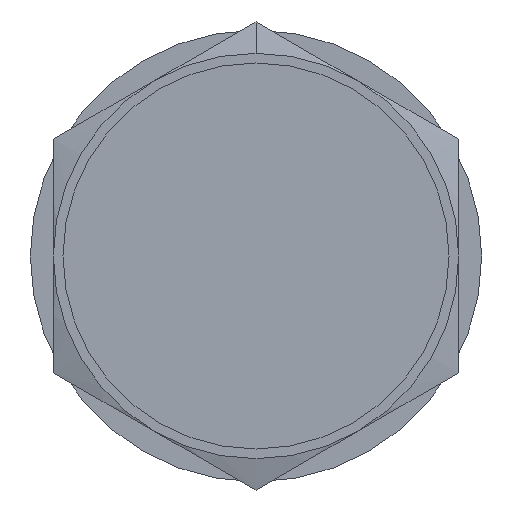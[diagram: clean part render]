
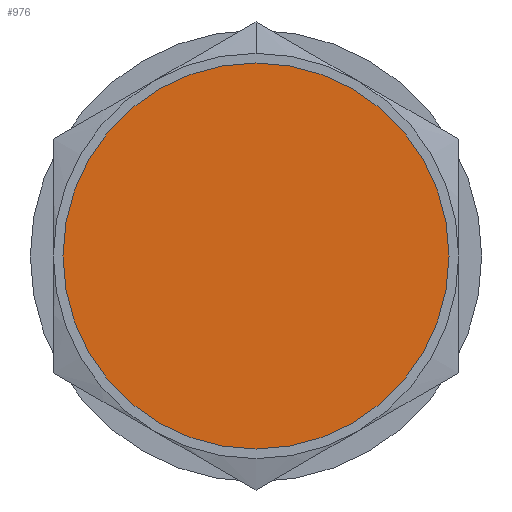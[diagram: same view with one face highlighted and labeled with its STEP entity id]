
A CAD part, front view. The second image highlights one B-rep face of the part: STEP entity #976.
In plain terms, the highlighted planar face has unit normal (0, -1, 0).
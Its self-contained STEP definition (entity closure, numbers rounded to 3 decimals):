
#19 = AXIS2_PLACEMENT_3D ( 'NONE', #1263, #1245, #1826 ) ;
#92 = DIRECTION ( 'NONE',  ( 0., 0., -1. ) ) ;
#132 = VERTEX_POINT ( 'NONE', #1698 ) ;
#158 = VERTEX_POINT ( 'NONE', #687 ) ;
#392 = FACE_OUTER_BOUND ( 'NONE', #1330, .T. ) ;
#656 = ORIENTED_EDGE ( 'NONE', *, *, #725, .T. ) ;
#662 = AXIS2_PLACEMENT_3D ( 'NONE', #1763, #1058, #1614 ) ;
#674 = PLANE ( 'NONE',  #19 ) ;
#687 = CARTESIAN_POINT ( 'NONE',  ( 0., -8.1, -10.478 ) ) ;
#725 = EDGE_CURVE ( 'NONE', #132, #158, #1296, .T. ) ;
#795 = CARTESIAN_POINT ( 'NONE',  ( 0., -8.1, 0. ) ) ;
#823 = EDGE_CURVE ( 'NONE', #158, #132, #1526, .T. ) ;
#976 = ADVANCED_FACE ( 'NONE', ( #392 ), #674, .F. ) ;
#1058 = DIRECTION ( 'NONE',  ( 0., -1., 0. ) ) ;
#1245 = DIRECTION ( 'NONE',  ( 0., 1., 0. ) ) ;
#1263 = CARTESIAN_POINT ( 'NONE',  ( 10.478, -8.1, 0. ) ) ;
#1296 = CIRCLE ( 'NONE', #662, 10.478 ) ;
#1330 = EDGE_LOOP ( 'NONE', ( #1386, #656 ) ) ;
#1386 = ORIENTED_EDGE ( 'NONE', *, *, #823, .T. ) ;
#1526 = CIRCLE ( 'NONE', #1615, 10.478 ) ;
#1614 = DIRECTION ( 'NONE',  ( 0., 0., -1. ) ) ;
#1615 = AXIS2_PLACEMENT_3D ( 'NONE', #795, #1756, #92 ) ;
#1698 = CARTESIAN_POINT ( 'NONE',  ( 0., -8.1, 10.478 ) ) ;
#1756 = DIRECTION ( 'NONE',  ( 0., -1., 0. ) ) ;
#1763 = CARTESIAN_POINT ( 'NONE',  ( 0., -8.1, 0. ) ) ;
#1826 = DIRECTION ( 'NONE',  ( 1., 0., 0. ) ) ;
